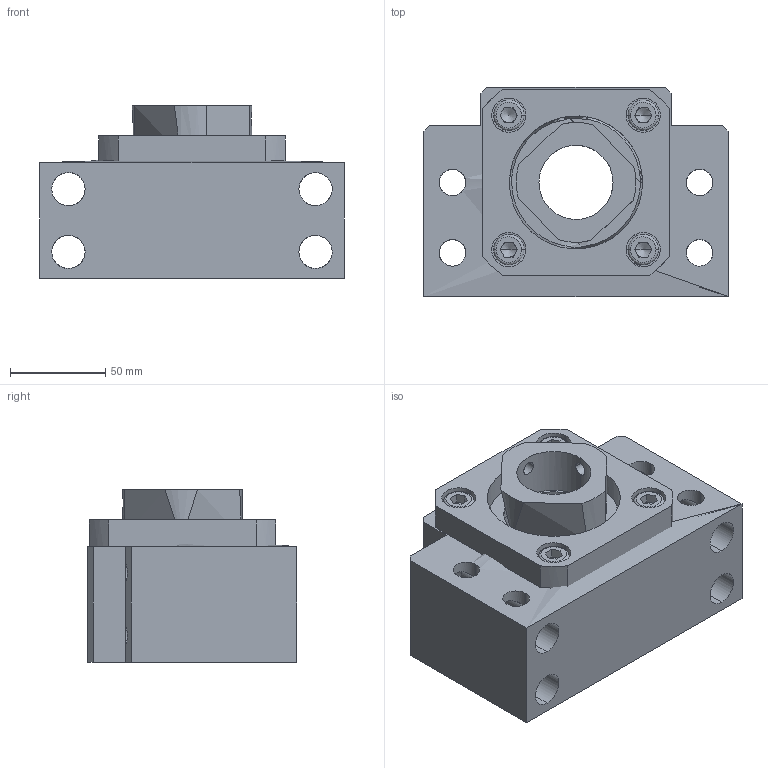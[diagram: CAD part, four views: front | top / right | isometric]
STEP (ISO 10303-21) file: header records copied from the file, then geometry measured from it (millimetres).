
FILE_DESCRIPTION (( 'STEP AP214' ), '1' );
FILE_NAME ('7.4008 BK40.STEP', '2026-03-06T06:26:05', ( '' ), ( '' ), 'SwSTEP 2.0', 'SolidWorks 2025', '' );
FILE_SCHEMA (( 'AUTOMOTIVE_DESIGN' ));
Length unit declared in the file: millimetre
Products named in the file (1): 7.4008 BK40
Bounding box: 160 x 110.1 x 91 mm (x, y, z)
Surface area: 124805.7 mm2 (no closed solid volume)
Topology: 0 solids, 17 shells, 262 faces, 751 edges, 472 vertices
Faces by surface type: plane 107, cylinder 67, bspline 35, sphere 28, cone 25
Entity records: 20867 total; most frequent: CARTESIAN_POINT 15661, ORIENTED_EDGE 1358, EDGE_CURVE 724, B_SPLINE_CURVE_WITH_KNOTS 679, DIRECTION 481, VERTEX_POINT 472, EDGE_LOOP 304, ADVANCED_FACE 262
